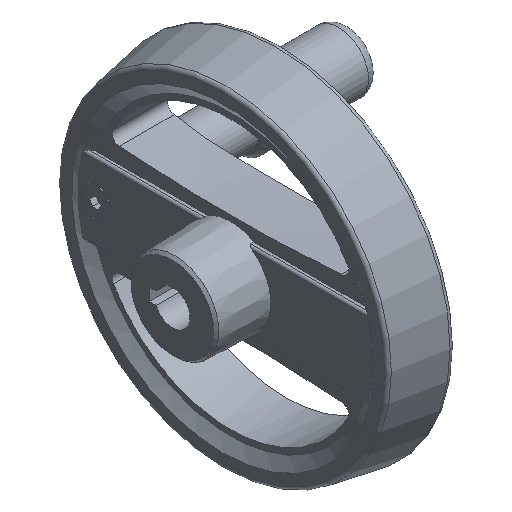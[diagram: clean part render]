
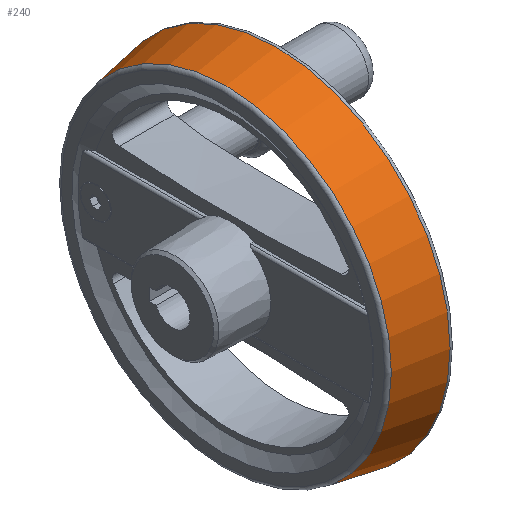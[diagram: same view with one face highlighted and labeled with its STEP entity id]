
A CAD part, isometric view. The second image highlights one B-rep face of the part: STEP entity #240.
In plain terms, the highlighted conical face has half-angle 10 degrees and reference radius 66.287 mm.
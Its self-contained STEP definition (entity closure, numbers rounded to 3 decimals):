
#240 = ADVANCED_FACE( '', ( #445, #446 ), #447, .T. );
#445 = FACE_OUTER_BOUND( '', #706, .T. );
#446 = FACE_BOUND( '', #707, .T. );
#447 = CONICAL_SURFACE( '', #708, 66.287, 0.175 );
#706 = EDGE_LOOP( '', ( #1350 ) );
#707 = EDGE_LOOP( '', ( #1351 ) );
#708 = AXIS2_PLACEMENT_3D( '', #1352, #1353, #1354 );
#1350 = ORIENTED_EDGE( '', *, *, #1750, .F. );
#1351 = ORIENTED_EDGE( '', *, *, #1749, .T. );
#1352 = CARTESIAN_POINT( '', ( 21.44, 0., 0. ) );
#1353 = DIRECTION( '', ( 1., 0., 0. ) );
#1354 = DIRECTION( '', ( 0., 0., -1. ) );
#1749 = EDGE_CURVE( '', #2110, #2110, #2111, .T. );
#1750 = EDGE_CURVE( '', #2112, #2112, #2113, .T. );
#2110 = VERTEX_POINT( '', #3056 );
#2111 = CIRCLE( '', #3057, 66.287 );
#2112 = VERTEX_POINT( '', #3058 );
#2113 = CIRCLE( '', #3059, 69.817 );
#3056 = CARTESIAN_POINT( '', ( 21.44, 0., -66.287 ) );
#3057 = AXIS2_PLACEMENT_3D( '', #3412, #3413, #3414 );
#3058 = CARTESIAN_POINT( '', ( 41.46, 0., -69.817 ) );
#3059 = AXIS2_PLACEMENT_3D( '', #3415, #3416, #3417 );
#3412 = CARTESIAN_POINT( '', ( 21.44, 0., 0. ) );
#3413 = DIRECTION( '', ( 1., 0., 0. ) );
#3414 = DIRECTION( '', ( 0., 0., -1. ) );
#3415 = CARTESIAN_POINT( '', ( 41.46, 0., 0. ) );
#3416 = DIRECTION( '', ( 1., 0., 0. ) );
#3417 = DIRECTION( '', ( 0., 0., -1. ) );
